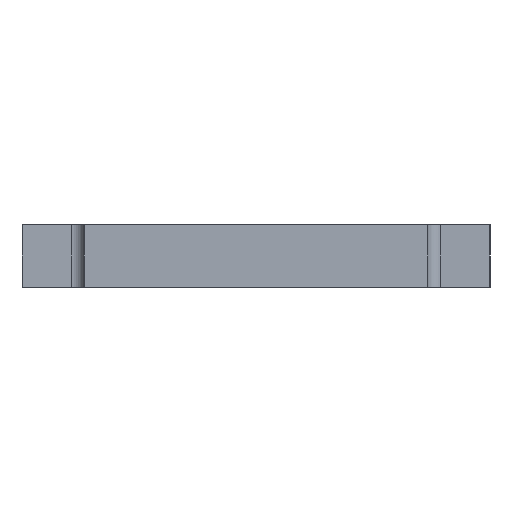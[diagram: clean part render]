
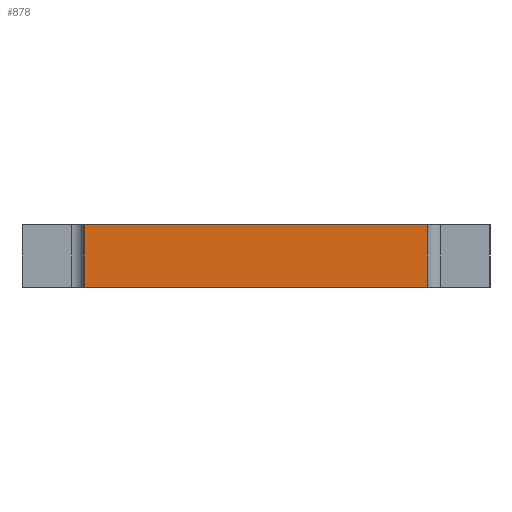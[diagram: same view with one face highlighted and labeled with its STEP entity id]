
A CAD part, left-side view. The second image highlights one B-rep face of the part: STEP entity #878.
In plain terms, the highlighted planar face has unit normal (-1, 0, 0).
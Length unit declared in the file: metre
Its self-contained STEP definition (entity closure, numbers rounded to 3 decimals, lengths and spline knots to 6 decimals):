
#196=ORIENTED_EDGE('',*,*,#288,.T.);
#197=ORIENTED_EDGE('',*,*,#367,.F.);
#198=ORIENTED_EDGE('',*,*,#320,.F.);
#199=ORIENTED_EDGE('',*,*,#368,.T.);
#288=EDGE_CURVE('',#409,#408,#485,.T.);
#320=EDGE_CURVE('',#440,#441,#515,.T.);
#367=EDGE_CURVE('',#441,#408,#559,.T.);
#368=EDGE_CURVE('',#440,#409,#560,.T.);
#408=VERTEX_POINT('',#1474);
#409=VERTEX_POINT('',#1476);
#440=VERTEX_POINT('',#1539);
#441=VERTEX_POINT('',#1541);
#485=LINE('',#1475,#597);
#515=LINE('',#1540,#627);
#559=LINE('',#1633,#671);
#560=LINE('',#1635,#672);
#597=VECTOR('',#1241,1.);
#627=VECTOR('',#1277,1.);
#671=VECTOR('',#1373,1.);
#672=VECTOR('',#1376,1.);
#713=EDGE_LOOP('',(#196,#197,#198,#199));
#755=FACE_BOUND('',#713,.T.);
#794=PLANE('',#1193);
#878=ADVANCED_FACE('',(#755),#794,.F.);
#1193=AXIS2_PLACEMENT_3D('',#1634,#1374,#1375);
#1241=DIRECTION('',(0.,1.,0.));
#1277=DIRECTION('',(0.,1.,0.));
#1373=DIRECTION('',(0.,0.,1.));
#1374=DIRECTION('',(1.,0.,0.));
#1375=DIRECTION('',(0.,0.,-1.));
#1376=DIRECTION('',(0.,0.,1.));
#1474=CARTESIAN_POINT('',(-0.093778,-0.010872,0.00785));
#1475=CARTESIAN_POINT('',(-0.093778,-0.013072,0.00785));
#1476=CARTESIAN_POINT('',(-0.093778,-0.013072,0.00785));
#1539=CARTESIAN_POINT('',(-0.093778,-0.013072,0.00745));
#1540=CARTESIAN_POINT('',(-0.093778,-0.013072,0.00745));
#1541=CARTESIAN_POINT('',(-0.093778,-0.010872,0.00745));
#1633=CARTESIAN_POINT('',(-0.093778,-0.010872,0.00745));
#1634=CARTESIAN_POINT('',(-0.093778,-0.013072,0.00745));
#1635=CARTESIAN_POINT('',(-0.093778,-0.013072,0.00745));
